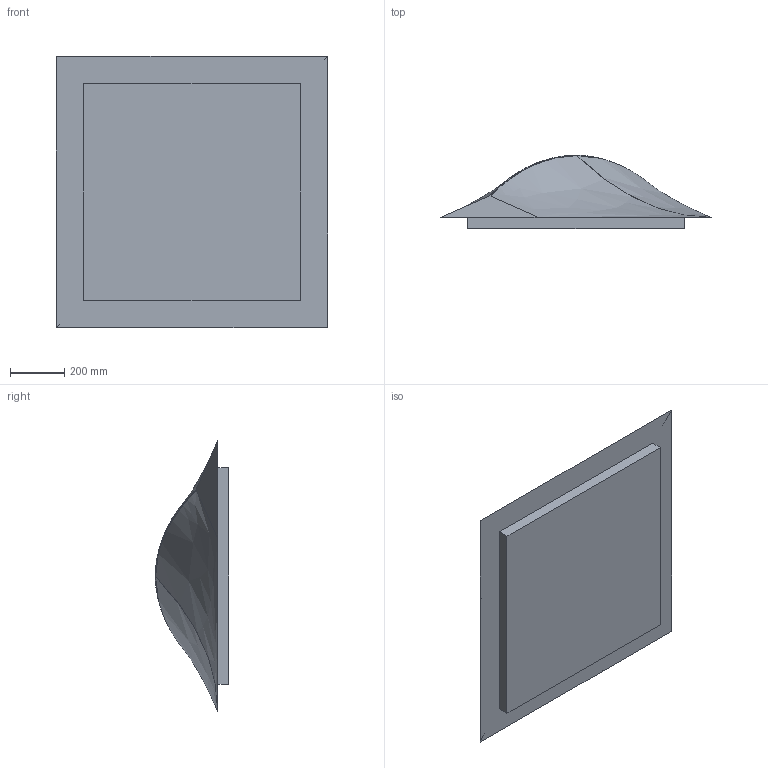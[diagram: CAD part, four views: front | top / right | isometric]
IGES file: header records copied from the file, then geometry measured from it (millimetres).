
Start section: SolidWorks IGES file using analytic representation for surfaces
Global section: file name: C:\Users\tungari.NEMOLIGHTING\Desktop\3D\WALL_CEILING\boh\3D_SAORI_100\3D_SAORI_100.IGS; native system: SolidWorks 2016; preprocessor: SolidWorks 2016; author: tungari; date: 180322.145720; units: millimetre
Bounding box: 1000 x 270.28 x 1000 mm (x, y, z)
Surface area: 3510671.3 mm2 (no closed solid volume)
Topology: 0 solids, 0 shells, 17 faces, 114 edges, 114 vertices
Faces by surface type: bspline 17
